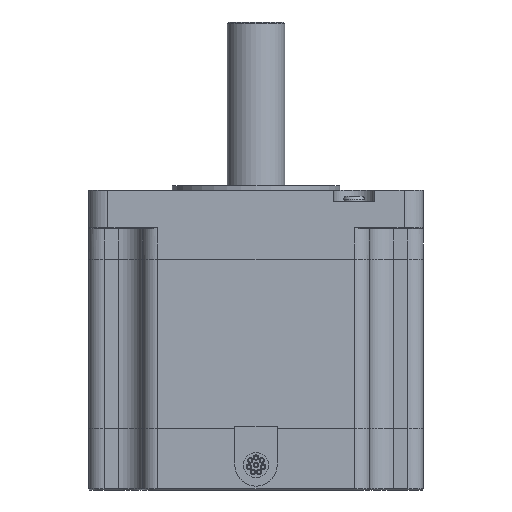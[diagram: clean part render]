
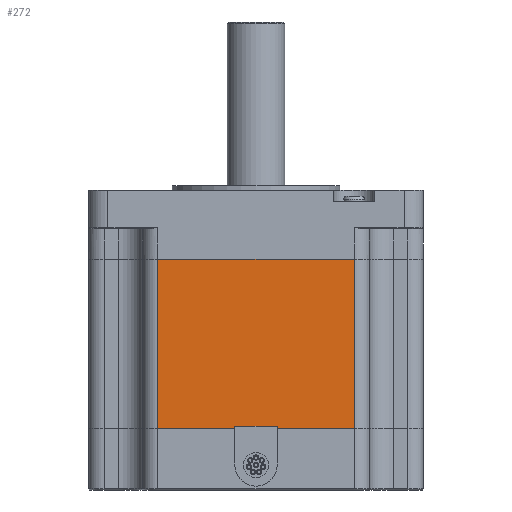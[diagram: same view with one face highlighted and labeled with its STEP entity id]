
A CAD part, front view. The second image highlights one B-rep face of the part: STEP entity #272.
In plain terms, the highlighted planar face has unit normal (0, -1, 0).
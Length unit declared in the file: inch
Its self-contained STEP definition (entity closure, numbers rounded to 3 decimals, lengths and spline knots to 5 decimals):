
#270 = VERTEX_POINT ( 'NONE', #2174 ) ;
#272 = ADVANCED_FACE ( 'NONE', ( #2139 ), #2178, .F. ) ;
#277 = EDGE_CURVE ( 'NONE', #270, #15116, #2204, .T. ) ;
#279 = EDGE_LOOP ( 'NONE', ( #290, #288, #294, #291 ) ) ;
#283 = EDGE_CURVE ( 'NONE', #285, #15056, #2243, .T. ) ;
#285 = VERTEX_POINT ( 'NONE', #2245 ) ;
#288 = ORIENTED_EDGE ( 'NONE', *, *, #283, .F. ) ;
#290 = ORIENTED_EDGE ( 'NONE', *, *, #15115, .T. ) ;
#291 = ORIENTED_EDGE ( 'NONE', *, *, #277, .T. ) ;
#292 = EDGE_CURVE ( 'NONE', #270, #285, #2247, .T. ) ;
#294 = ORIENTED_EDGE ( 'NONE', *, *, #292, .F. ) ;
#2139 = FACE_OUTER_BOUND ( 'NONE', #279, .T. ) ;
#2172 = AXIS2_PLACEMENT_3D ( 'NONE', #2201, #2200, #2199 ) ;
#2174 = CARTESIAN_POINT ( 'NONE',  ( 1.2775, -2.1765, -3.1 ) ) ;
#2178 = PLANE ( 'NONE',  #2172 ) ;
#2187 = DIRECTION ( 'NONE',  ( 0., 0., 1. ) ) ;
#2188 = VECTOR ( 'NONE', #2187, 39.37008 ) ;
#2199 = DIRECTION ( 'NONE',  ( -1., 0., 0. ) ) ;
#2200 = DIRECTION ( 'NONE',  ( 0., 1., 0. ) ) ;
#2201 = CARTESIAN_POINT ( 'NONE',  ( 1.2775, -2.1765, -3.1 ) ) ;
#2203 = CARTESIAN_POINT ( 'NONE',  ( 1.2775, -2.1765, -3.1 ) ) ;
#2204 = LINE ( 'NONE', #2203, #2188 ) ;
#2235 = DIRECTION ( 'NONE',  ( 0., 0., 1. ) ) ;
#2236 = VECTOR ( 'NONE', #2235, 39.37008 ) ;
#2243 = LINE ( 'NONE', #2244, #2236 ) ;
#2244 = CARTESIAN_POINT ( 'NONE',  ( -1.2775, -2.1765, -3.1 ) ) ;
#2245 = CARTESIAN_POINT ( 'NONE',  ( -1.2775, -2.1765, -3.1 ) ) ;
#2246 = CARTESIAN_POINT ( 'NONE',  ( 1.2775, -2.1765, -3.1 ) ) ;
#2247 = LINE ( 'NONE', #2246, #2274 ) ;
#2273 = DIRECTION ( 'NONE',  ( -1., 0., 0. ) ) ;
#2274 = VECTOR ( 'NONE', #2273, 39.37008 ) ;
#11701 = CARTESIAN_POINT ( 'NONE',  ( -1.2775, -2.1765, -0.9 ) ) ;
#11816 = DIRECTION ( 'NONE',  ( -1., 0., 0. ) ) ;
#11817 = VECTOR ( 'NONE', #11816, 39.37008 ) ;
#11818 = CARTESIAN_POINT ( 'NONE',  ( 1.2775, -2.1765, -0.9 ) ) ;
#11820 = CARTESIAN_POINT ( 'NONE',  ( 1.2775, -2.1765, -0.9 ) ) ;
#11825 = LINE ( 'NONE', #11818, #11817 ) ;
#15056 = VERTEX_POINT ( 'NONE', #11701 ) ;
#15115 = EDGE_CURVE ( 'NONE', #15116, #15056, #11825, .T. ) ;
#15116 = VERTEX_POINT ( 'NONE', #11820 ) ;
